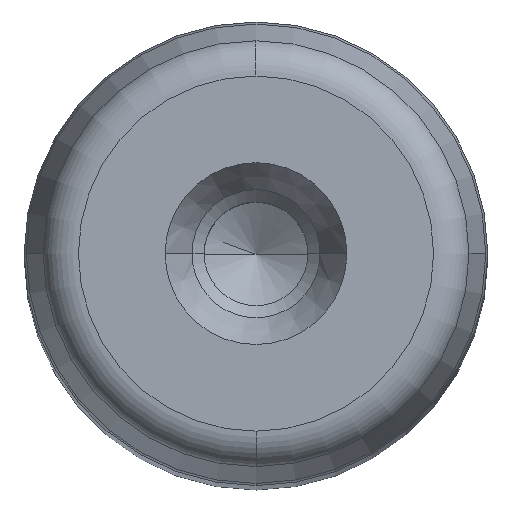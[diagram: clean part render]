
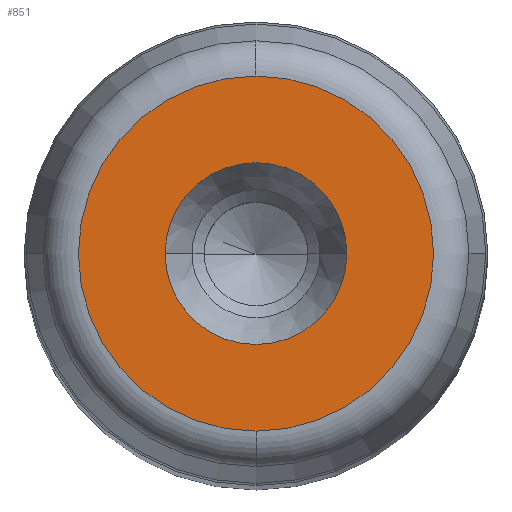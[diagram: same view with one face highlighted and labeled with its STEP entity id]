
A CAD part, top view. The second image highlights one B-rep face of the part: STEP entity #851.
In plain terms, the highlighted planar face has unit normal (0, 0, 1) as drawn and (0, 1, 0) by its records, which use the part's own axes.
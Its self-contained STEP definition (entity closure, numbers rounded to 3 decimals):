
#281=CARTESIAN_POINT('',(7.45,220.0,0.0));
#282=VERTEX_POINT('',#281);
#289=CARTESIAN_POINT('',(-7.45,220.0,0.));
#290=VERTEX_POINT('',#289);
#291=CARTESIAN_POINT('',(0.0,220.0,0.0));
#292=DIRECTION('',(0.0,1.0,0.0));
#293=DIRECTION('',(1.0,0.0,0.0));
#294=AXIS2_PLACEMENT_3D('',#291,#292,#293);
#295=CIRCLE('',#294,7.45);
#296=EDGE_CURVE('',#282,#290,#295,.T.);
#313=CARTESIAN_POINT('',(0.0,220.0,14.554));
#314=VERTEX_POINT('',#313);
#324=CARTESIAN_POINT('',(0.,220.0,-14.554));
#325=VERTEX_POINT('',#324);
#326=CARTESIAN_POINT('',(0.0,220.0,0.0));
#327=DIRECTION('',(0.0,1.0,0.0));
#328=DIRECTION('',(1.0,0.0,0.0));
#329=AXIS2_PLACEMENT_3D('',#326,#327,#328);
#330=CIRCLE('',#329,14.554);
#331=EDGE_CURVE('',#325,#314,#330,.T.);
#812=CARTESIAN_POINT('',(14.554,220.0,0.0));
#813=VERTEX_POINT('',#812);
#814=CARTESIAN_POINT('',(0.0,220.0,0.0));
#815=DIRECTION('',(0.0,1.0,0.0));
#816=DIRECTION('',(1.0,0.0,0.0));
#817=AXIS2_PLACEMENT_3D('',#814,#815,#816);
#818=CIRCLE('',#817,14.554);
#819=EDGE_CURVE('',#813,#325,#818,.T.);
#821=CARTESIAN_POINT('',(0.0,220.0,0.0));
#822=DIRECTION('',(0.0,1.0,0.0));
#823=DIRECTION('',(1.0,0.0,0.0));
#824=AXIS2_PLACEMENT_3D('',#821,#822,#823);
#825=CIRCLE('',#824,14.554);
#826=EDGE_CURVE('',#314,#813,#825,.T.);
#831=CARTESIAN_POINT('',(-16.01,220.0,-16.01));
#832=DIRECTION('',(0.0,1.0,0.0));
#833=DIRECTION('',(0.0,0.0,1.0));
#834=AXIS2_PLACEMENT_3D('',#831,#832,#833);
#835=PLANE('',#834);
#836=ORIENTED_EDGE('',*,*,#819,.T.);
#837=ORIENTED_EDGE('',*,*,#331,.T.);
#838=ORIENTED_EDGE('',*,*,#826,.T.);
#839=EDGE_LOOP('',(#836,#837,#838));
#840=FACE_OUTER_BOUND('',#839,.T.);
#841=ORIENTED_EDGE('',*,*,#296,.F.);
#842=CARTESIAN_POINT('',(0.0,220.0,0.0));
#843=DIRECTION('',(0.0,1.0,0.0));
#844=DIRECTION('',(1.0,0.0,0.0));
#845=AXIS2_PLACEMENT_3D('',#842,#843,#844);
#846=CIRCLE('',#845,7.45);
#847=EDGE_CURVE('',#290,#282,#846,.T.);
#848=ORIENTED_EDGE('',*,*,#847,.F.);
#849=EDGE_LOOP('',(#841,#848));
#850=FACE_BOUND('',#849,.T.);
#851=ADVANCED_FACE('',(#840,#850),#835,.T.);
